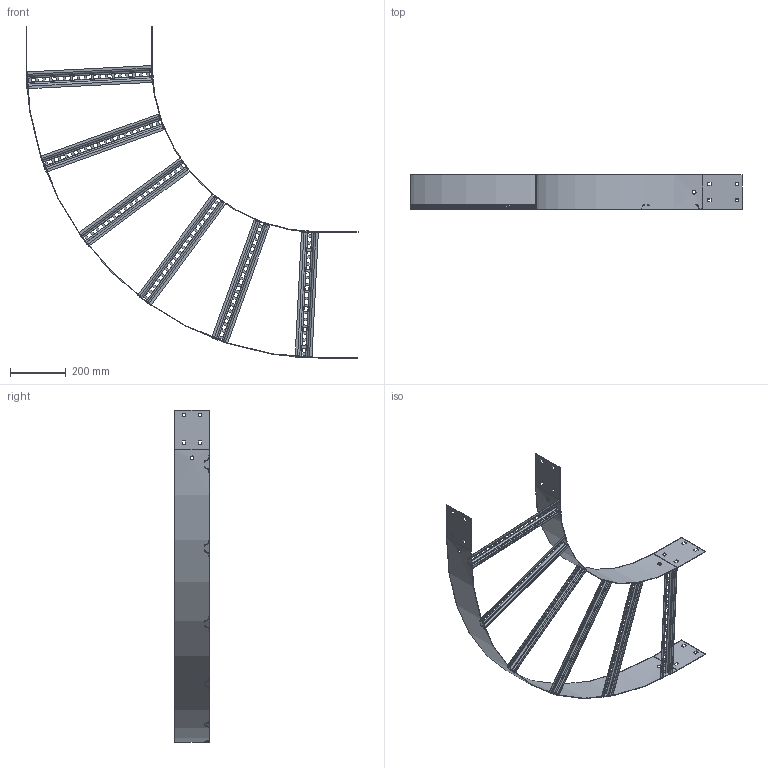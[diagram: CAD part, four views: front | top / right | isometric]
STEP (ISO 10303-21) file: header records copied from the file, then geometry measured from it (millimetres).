
FILE_DESCRIPTION (( 'STEP AP203' ), '1' );
FILE_NAME ('N3 B 4506.STEP', '2019-11-26T00:54:57', ( 'WS' ), ( 'Korvest Pty Ltd' ), 'SwSTEP 2.0', 'SolidWorks 2016', '' );
FILE_SCHEMA (( 'CONFIG_CONTROL_DESIGN' ));
Length unit declared in the file: millimetre
Products named in the file (4): N3 RADIUS PLATE_N1-600 IR; N3 RADIUS PLATE_N1-1050 ; Ladder Rung_Ladder Rung -  450mm; N3 B 4506
Assembly tree (8 placements, depth 2):
  N3 B 4506
    N3 RADIUS PLATE_N1-600 IR
    N3 RADIUS PLATE_N1-1050 
    Ladder Rung_Ladder Rung -  450mm  x6
Bounding box: 1194.5 x 124 x 1194.5 mm (x, y, z)
Volume: 1066379.6 mm3; surface area: 1173774.9 mm2
Topology: 8 solids, 8 shells, 784 faces, 2096 edges, 1328 vertices
Faces by surface type: plane 724, cylinder 60
Entity records: 7898 total; most frequent: CARTESIAN_POINT 1857, ORIENTED_EDGE 1152, DIRECTION 1034, EDGE_CURVE 576, LINE 536, VECTOR 536, VERTEX_POINT 368, EDGE_LOOP 288
